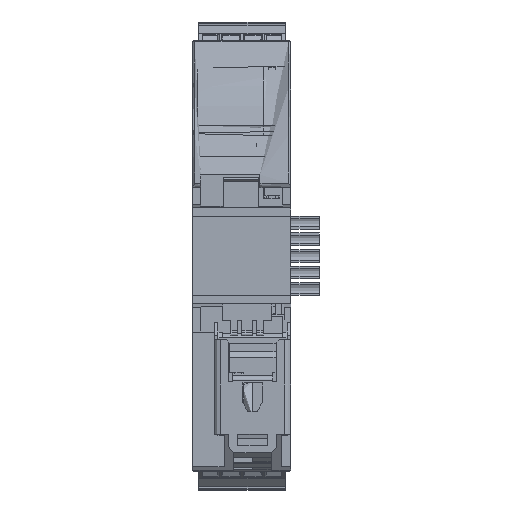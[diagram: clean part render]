
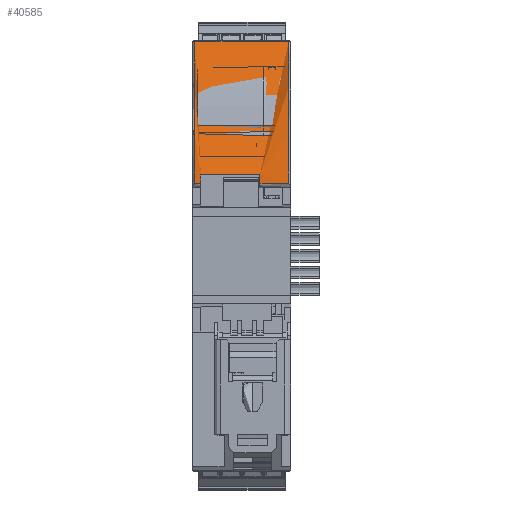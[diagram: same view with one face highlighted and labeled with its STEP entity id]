
A CAD part, left-side view. The second image highlights one B-rep face of the part: STEP entity #40585.
In plain terms, the highlighted cylindrical face has radius 80 mm (diameter 160 mm), a partial arc.
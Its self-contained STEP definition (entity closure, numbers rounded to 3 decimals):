
#40585=ADVANCED_FACE('',(#96251),#96253,.T.);
#96251=FACE_BOUND('',#96252,.T.);
#96252=EDGE_LOOP('',(#150968,#150969,#150970,#150971,#150972,#150973,#150974,#150975));
#96253=CYLINDRICAL_SURFACE('',#96254,80.);
#96254=AXIS2_PLACEMENT_3D('',#96255,#96256,#96257);
#96255=CARTESIAN_POINT('',(75.75,12.1,13.5));
#96256=DIRECTION('',(0.,-1.,0.));
#96257=DIRECTION('',(0.,0.,-1.));
#150968=ORIENTED_EDGE('',*,*,#178874,.F.);
#150969=ORIENTED_EDGE('',*,*,#178865,.T.);
#150970=ORIENTED_EDGE('',*,*,#178880,.F.);
#150971=ORIENTED_EDGE('',*,*,#177699,.F.);
#150972=ORIENTED_EDGE('',*,*,#177696,.T.);
#150973=ORIENTED_EDGE('',*,*,#181917,.T.);
#150974=ORIENTED_EDGE('',*,*,#177528,.T.);
#150975=ORIENTED_EDGE('',*,*,#177526,.T.);
#177526=EDGE_CURVE('',#206424,#206422,#206425,.T.);
#177528=EDGE_CURVE('',#206427,#206424,#206428,.T.);
#177696=EDGE_CURVE('',#206720,#206721,#206722,.T.);
#177699=EDGE_CURVE('',#206720,#206725,#206726,.T.);
#178865=EDGE_CURVE('',#208530,#208528,#208531,.T.);
#178874=EDGE_CURVE('',#208530,#206422,#208544,.T.);
#178880=EDGE_CURVE('',#206725,#208528,#208552,.T.);
#181917=EDGE_CURVE('',#206721,#206427,#213221,.T.);
#206422=VERTEX_POINT('',#266712);
#206424=VERTEX_POINT('',#266717);
#206425=LINE('',#266718,#266719);
#206427=VERTEX_POINT('',#266790);
#206428=CIRCLE('',#266791,80.);
#206720=VERTEX_POINT('',#267552);
#206721=VERTEX_POINT('',#267553);
#206722=CIRCLE('',#267554,80.);
#206725=VERTEX_POINT('',#267644);
#206726=LINE('',#267645,#267646);
#208528=VERTEX_POINT('',#272937);
#208530=VERTEX_POINT('',#272941);
#208531=LINE('',#272942,#272943);
#208544=CIRCLE('',#272973,80.);
#208552=CIRCLE('',#272994,80.);
#213221=LINE('',#284621,#284622);
#266712=CARTESIAN_POINT('',(-4.184,20.7,16.741));
#266717=CARTESIAN_POINT('',(-4.184,22.1,16.741));
#266718=CARTESIAN_POINT('',(-4.184,22.1,16.741));
#266719=VECTOR('',#266720,1.);
#266720=DIRECTION('',(0.,-1.,0.));
#266790=CARTESIAN_POINT('',(4.169,22.1,49.223));
#266791=AXIS2_PLACEMENT_3D('',#266792,#266793,#266794);
#266792=CARTESIAN_POINT('',(75.75,22.1,13.5));
#266793=DIRECTION('',(0.,-1.,0.));
#266794=DIRECTION('',(-0.895,0.,0.447));
#267552=CARTESIAN_POINT('',(-4.184,0.5,16.741));
#267553=CARTESIAN_POINT('',(4.169,0.5,49.223));
#267554=AXIS2_PLACEMENT_3D('',#267555,#267556,#267557);
#267555=CARTESIAN_POINT('',(75.75,0.5,13.5));
#267556=DIRECTION('',(0.,1.,0.));
#267557=DIRECTION('',(-0.999,0.,0.041));
#267644=CARTESIAN_POINT('',(-4.184,7.1,16.741));
#267645=CARTESIAN_POINT('',(-4.184,0.5,16.741));
#267646=VECTOR('',#267647,1.);
#267647=DIRECTION('',(0.,1.,0.));
#272937=CARTESIAN_POINT('',(-4.081,7.1,18.7));
#272941=CARTESIAN_POINT('',(-4.081,20.7,18.7));
#272942=CARTESIAN_POINT('',(-4.081,20.7,18.7));
#272943=VECTOR('',#272944,1.);
#272944=DIRECTION('',(0.,-1.,0.));
#272973=AXIS2_PLACEMENT_3D('',#272974,#272975,#272976);
#272974=CARTESIAN_POINT('',(75.75,20.7,13.5));
#272975=DIRECTION('',(0.,-1.,0.));
#272976=DIRECTION('',(-0.998,0.,0.065));
#272994=AXIS2_PLACEMENT_3D('',#272995,#272996,#272997);
#272995=CARTESIAN_POINT('',(75.75,7.1,13.5));
#272996=DIRECTION('',(0.,1.,0.));
#272997=DIRECTION('',(-0.999,0.,0.041));
#284621=CARTESIAN_POINT('',(4.169,0.5,49.223));
#284622=VECTOR('',#284623,1.);
#284623=DIRECTION('',(0.,1.,0.));
